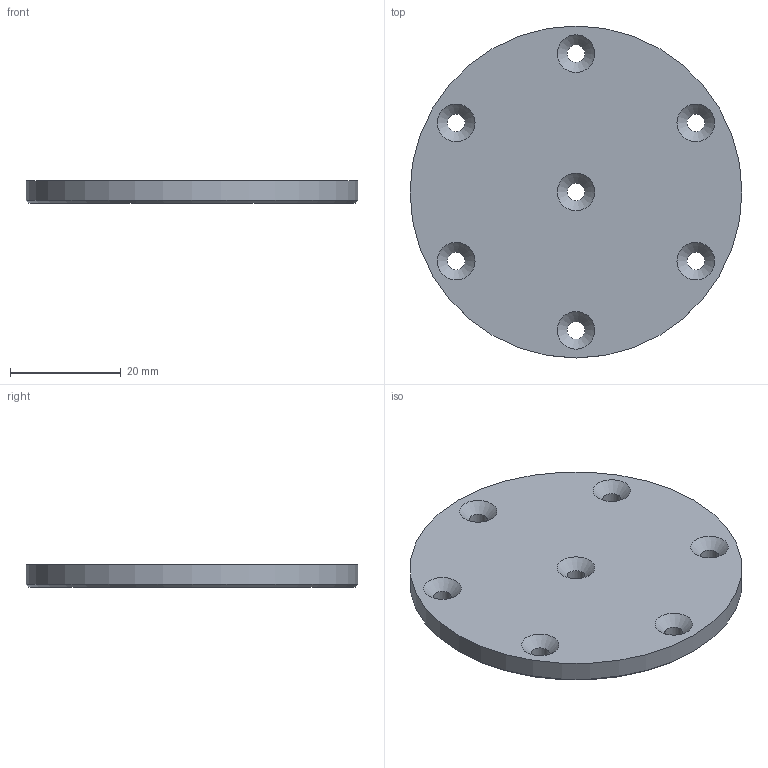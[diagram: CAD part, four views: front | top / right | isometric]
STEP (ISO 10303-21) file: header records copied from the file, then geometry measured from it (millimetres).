
FILE_DESCRIPTION(/* description */ ('Cover Panel'),/* implementation_level */ '2;1');
FILE_NAME(/* name */ 'Z:\Werkstatt Server\Projekte\Atlas\Entwicklung u. Konstruktion\Konstruktion\CAD Daten\ITkPixToolV2.0\Baremodule Jig\ITPTv2.01.00.19.stp',/* time_stamp */ '2021-08-06T14:56:38+02:00',/* author */ ('Tim Kanngießer'),/* organization */ (''),/* preprocessor_version */ 'ST-DEVELOPER v18.1',/* originating_system */ 'Autodesk Inventor 2022',/* authorisation */ '');
FILE_SCHEMA (('AUTOMOTIVE_DESIGN { 1 0 10303 214 3 1 1 }'));
Length unit declared in the file: millimetre
Products named in the file (1): ITPTv2.01.00.19
Bounding box: 60 x 60 x 4 mm (x, y, z)
Volume: 10904.4 mm3; surface area: 6477.5 mm2
Topology: 1 solids, 1 shells, 18 faces, 41 edges, 25 vertices
Faces by surface type: cone 8, cylinder 8, plane 2
Full cylindrical faces by diameter (mm): 3.2 x7, 60 x1
Entity records: 583 total; most frequent: DIRECTION 104, CARTESIAN_POINT 85, ORIENTED_EDGE 82, AXIS2_PLACEMENT_3D 44, EDGE_CURVE 41, EDGE_LOOP 32, CIRCLE 25, VERTEX_POINT 25
